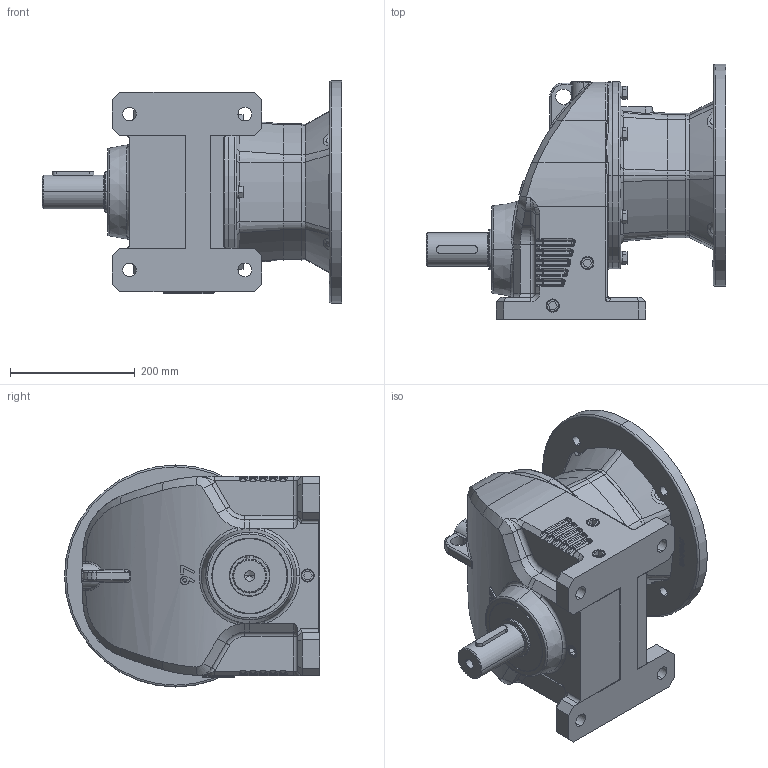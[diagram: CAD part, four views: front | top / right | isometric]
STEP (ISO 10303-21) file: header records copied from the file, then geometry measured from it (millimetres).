
FILE_DESCRIPTION (( 'STEP AP203' ), '1' );
FILE_NAME ('RX097HF-32TC.STEP', '2015-03-16T05:52:01', ( 'user' ), ( '' ), 'SwSTEP 2.0', 'SolidWorks 2012', '' );
FILE_SCHEMA (( 'CONFIG_CONTROL_DESIGN' ));
Length unit declared in the file: millimetre
Products named in the file (27): PSS085120135; PTAA16050; KFGG324T; KNGH324T38_KNGH324T38; JHGA09750; PKD1_2067; PCA050; PBA6310_SKF - 6310 - 10,DE,NC,10_68; JKGB10799L_JKGB10799L; PSS065120151; PKD1409027S; PJB04; PCA055_JIS B 2804 Shaft use 55; PCB120; PBA6311_SKF - 6311 - 10,DE,NC,10_68; KEGX097; JCHX097; RX097HF-32TC; JSPC050060005A; 097法蘭入力組合324T_38; PBA6217_SKF - 6217 - 14,DE,NC,14_68; PBA6215_SKF - 6215 - 16,DE,NC,16_68; PWS12; PTBA12040; P150_JKGA3833R; PCA038_JIS B 2804 Shaft use 38; PKD1008030
Assembly tree (46 placements, depth 3):
  RX097HF-32TC
    JCHX097
    KEGX097
    PBA6311_SKF - 6311 - 10,DE,NC,10_68
    PCB120
    PCA055_JIS B 2804 Shaft use 55
    PJB04  x5
    PKD1409027S
    PSS065120151
    JKGB10799L_JKGB10799L
    PBA6310_SKF - 6310 - 10,DE,NC,10_68
    PCA050
    PKD1_2067
    097法蘭入力組合324T_38
      JHGA09750
      KNGH324T38_KNGH324T38
      KFGG324T
      PTAA16050  x6
      PSS085120135
      PKD1008030
      PCA038_JIS B 2804 Shaft use 38
      P150_JKGA3833R
      PTBA12040  x6
      PWS12  x6
      PBA6215_SKF - 6215 - 16,DE,NC,16_68
      PBA6217_SKF - 6217 - 14,DE,NC,14_68
      PJB04
    JSPC050060005A
Bounding box: 480.5 x 409.05 x 356.1 mm (x, y, z)
Volume: 11444334.6 mm3; surface area: 1980410.3 mm2
Topology: 45 solids, 45 shells, 2402 faces, 6466 edges, 4038 vertices
Faces by surface type: cylinder 758, plane 647, torus 341, bspline 307, cone 241, sphere 108
Entity records: 89816 total; most frequent: CARTESIAN_POINT 35765, ORIENTED_EDGE 11252, DIRECTION 10098, EDGE_CURVE 5626, AXIS2_PLACEMENT_3D 4189, VERTEX_POINT 3558, CIRCLE 2329, EDGE_LOOP 2328
